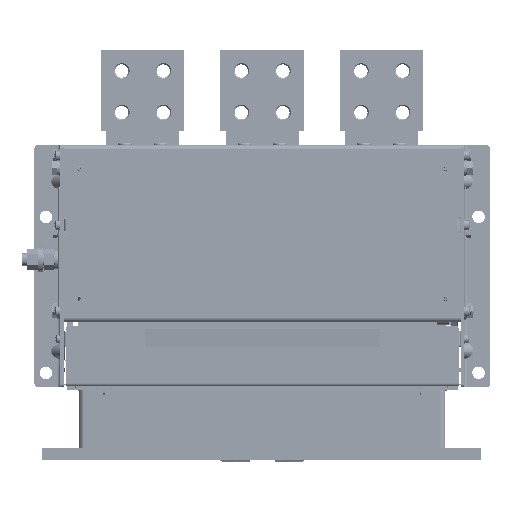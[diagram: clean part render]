
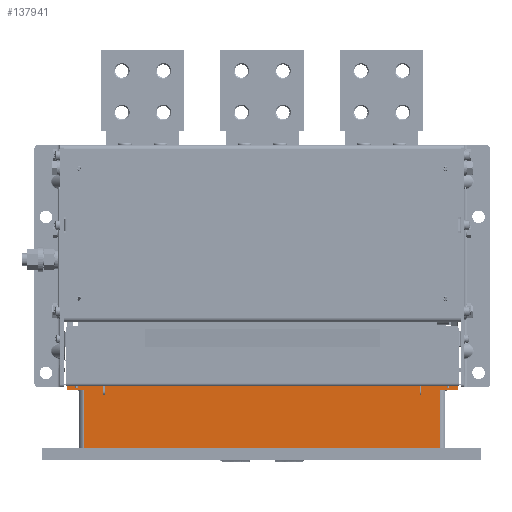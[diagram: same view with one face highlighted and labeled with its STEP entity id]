
A CAD part, front view. The second image highlights one B-rep face of the part: STEP entity #137941.
In plain terms, the highlighted planar face has unit normal (0, -1, 0) as drawn and (0, 1, 0) by its records, which use the part's own axes.
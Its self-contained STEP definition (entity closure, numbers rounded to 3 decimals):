
#530 = EDGE_CURVE ( 'NONE', #135513, #21031, #89885, .T. ) ;
#1385 = CARTESIAN_POINT ( 'NONE',  ( -32.971, 151.529, 315.1 ) ) ;
#4518 = CARTESIAN_POINT ( 'NONE',  ( 343.029, 151.529, 326.8 ) ) ;
#8372 = ORIENTED_EDGE ( 'NONE', *, *, #530, .T. ) ;
#8443 = VERTEX_POINT ( 'NONE', #87338 ) ;
#10829 = EDGE_CURVE ( 'NONE', #21031, #8443, #153868, .T. ) ;
#12368 = DIRECTION ( 'NONE',  ( 1., 0., 0. ) ) ;
#12697 = EDGE_CURVE ( 'NONE', #36346, #155233, #66611, .T. ) ;
#18258 = LINE ( 'NONE', #31165, #57704 ) ;
#21031 = VERTEX_POINT ( 'NONE', #150963 ) ;
#22150 = CARTESIAN_POINT ( 'NONE',  ( 343.029, 151.529, 326.8 ) ) ;
#24251 = VECTOR ( 'NONE', #80428, 1000. ) ;
#26639 = FACE_OUTER_BOUND ( 'NONE', #91018, .T. ) ;
#27209 = DIRECTION ( 'NONE',  ( 0., 0., 1. ) ) ;
#28090 = ORIENTED_EDGE ( 'NONE', *, *, #38219, .T. ) ;
#30368 = DIRECTION ( 'NONE',  ( 0., 0., -1. ) ) ;
#31165 = CARTESIAN_POINT ( 'NONE',  ( -15.971, 151.529, 382.25 ) ) ;
#36346 = VERTEX_POINT ( 'NONE', #22150 ) ;
#37496 = CARTESIAN_POINT ( 'NONE',  ( -15.971, 151.529, 326.8 ) ) ;
#37849 = CARTESIAN_POINT ( 'NONE',  ( 343.029, 151.529, 315.1 ) ) ;
#37887 = ORIENTED_EDGE ( 'NONE', *, *, #12697, .T. ) ;
#38026 = CARTESIAN_POINT ( 'NONE',  ( 343.029, 151.529, 315.1 ) ) ;
#38219 = EDGE_CURVE ( 'NONE', #155233, #81232, #125742, .T. ) ;
#39034 = EDGE_CURVE ( 'NONE', #135513, #96090, #18258, .T. ) ;
#43246 = VECTOR ( 'NONE', #54388, 1000. ) ;
#43853 = VECTOR ( 'NONE', #12368, 1000. ) ;
#54388 = DIRECTION ( 'NONE',  ( 1., 0., 0. ) ) ;
#57704 = VECTOR ( 'NONE', #30368, 1000. ) ;
#62907 = DIRECTION ( 'NONE',  ( 0., 1., 0. ) ) ;
#63915 = CARTESIAN_POINT ( 'NONE',  ( -32.971, 151.529, 326.8 ) ) ;
#66611 = LINE ( 'NONE', #4518, #76147 ) ;
#75811 = DIRECTION ( 'NONE',  ( 1., 0., 0. ) ) ;
#76111 = CARTESIAN_POINT ( 'NONE',  ( 326.029, 151.529, 326.8 ) ) ;
#76147 = VECTOR ( 'NONE', #153732, 1000. ) ;
#77953 = LINE ( 'NONE', #1385, #150155 ) ;
#80428 = DIRECTION ( 'NONE',  ( 0., 0., -1. ) ) ;
#81232 = VERTEX_POINT ( 'NONE', #152529 ) ;
#86043 = ORIENTED_EDGE ( 'NONE', *, *, #39034, .F. ) ;
#87338 = CARTESIAN_POINT ( 'NONE',  ( 326.029, 151.529, 326.8 ) ) ;
#89885 = LINE ( 'NONE', #142309, #43246 ) ;
#91018 = EDGE_LOOP ( 'NONE', ( #8372, #97308, #134842, #37887, #28090, #96106, #128550, #86043 ) ) ;
#92943 = EDGE_CURVE ( 'NONE', #8443, #36346, #99527, .T. ) ;
#96090 = VERTEX_POINT ( 'NONE', #37496 ) ;
#96106 = ORIENTED_EDGE ( 'NONE', *, *, #125378, .T. ) ;
#97308 = ORIENTED_EDGE ( 'NONE', *, *, #10829, .T. ) ;
#98118 = CARTESIAN_POINT ( 'NONE',  ( -32.971, 151.529, 326.8 ) ) ;
#99527 = LINE ( 'NONE', #76111, #105605 ) ;
#101580 = CARTESIAN_POINT ( 'NONE',  ( 301.029, 151.529, 380.35 ) ) ;
#105605 = VECTOR ( 'NONE', #138252, 1000. ) ;
#112121 = PLANE ( 'NONE',  #118542 ) ;
#113626 = DIRECTION ( 'NONE',  ( -1., 0., 0. ) ) ;
#116197 = CARTESIAN_POINT ( 'NONE',  ( -15.971, 151.529, 382.25 ) ) ;
#118542 = AXIS2_PLACEMENT_3D ( 'NONE', #101580, #62907, #75811 ) ;
#121190 = EDGE_CURVE ( 'NONE', #139933, #96090, #122864, .T. ) ;
#122864 = LINE ( 'NONE', #63915, #43853 ) ;
#124638 = VECTOR ( 'NONE', #113626, 1000. ) ;
#125378 = EDGE_CURVE ( 'NONE', #81232, #139933, #77953, .T. ) ;
#125742 = LINE ( 'NONE', #37849, #124638 ) ;
#128550 = ORIENTED_EDGE ( 'NONE', *, *, #121190, .T. ) ;
#134842 = ORIENTED_EDGE ( 'NONE', *, *, #92943, .T. ) ;
#135513 = VERTEX_POINT ( 'NONE', #116197 ) ;
#137941 = ADVANCED_FACE ( 'NONE', ( #26639 ), #112121, .T. ) ;
#138252 = DIRECTION ( 'NONE',  ( 1., 0., 0. ) ) ;
#139933 = VERTEX_POINT ( 'NONE', #98118 ) ;
#141782 = CARTESIAN_POINT ( 'NONE',  ( 326.029, 151.529, 382.25 ) ) ;
#142309 = CARTESIAN_POINT ( 'NONE',  ( -15.971, 151.529, 382.25 ) ) ;
#150155 = VECTOR ( 'NONE', #27209, 1000. ) ;
#150963 = CARTESIAN_POINT ( 'NONE',  ( 326.029, 151.529, 382.25 ) ) ;
#152529 = CARTESIAN_POINT ( 'NONE',  ( -32.971, 151.529, 315.1 ) ) ;
#153732 = DIRECTION ( 'NONE',  ( 0., 0., -1. ) ) ;
#153868 = LINE ( 'NONE', #141782, #24251 ) ;
#155233 = VERTEX_POINT ( 'NONE', #38026 ) ;
